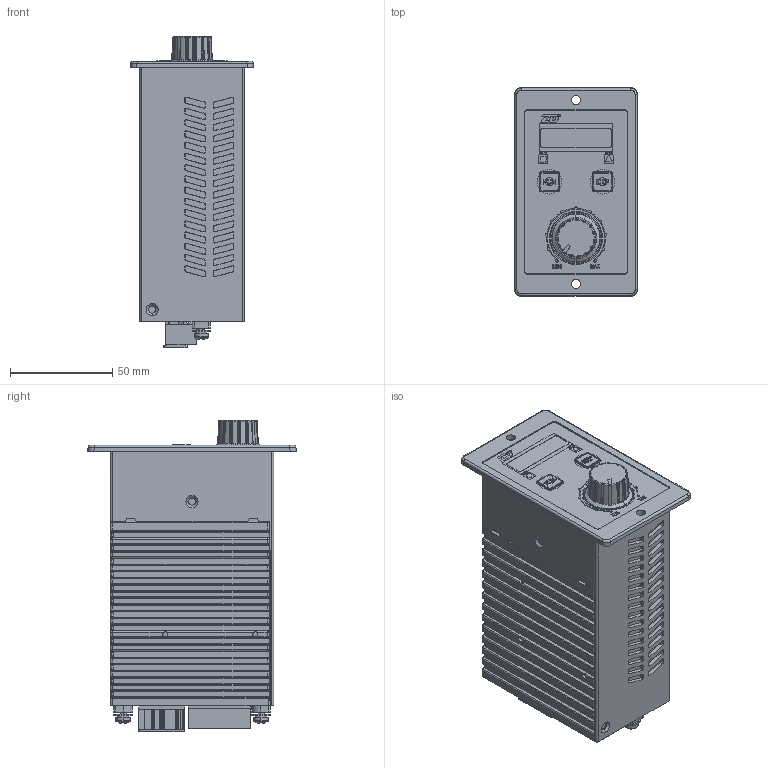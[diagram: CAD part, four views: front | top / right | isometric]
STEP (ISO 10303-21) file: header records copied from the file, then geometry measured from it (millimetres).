
FILE_DESCRIPTION (( 'STEP AP203' ), '1' );
FILE_NAME ('ZDRV.C10-200S2-D.STEP', '2023-04-24T04:50:46', ( '' ), ( '' ), 'SwSTEP 2.0', 'SolidWorks 2019', '' );
FILE_SCHEMA (( 'CONFIG_CONTROL_DESIGN' ));
Products named in the file (1): ZDRV.C10-200S2-D
Bounding box: 60 x 102 x 152.67 mm (x, y, z)
Volume: 521260.9 mm3; surface area: 74635.8 mm2
Topology: 1 solids, 16 shells, 4315 faces, 11379 edges, 7355 vertices
Faces by surface type: plane 2425, cylinder 748, bspline 621, cone 383, torus 108, sphere 30
Entity records: 159209 total; most frequent: CARTESIAN_POINT 56648, ORIENTED_EDGE 22700, DIRECTION 19144, EDGE_CURVE 11350, VECTOR 7434, LINE 7434, VERTEX_POINT 7355, AXIS2_PLACEMENT_3D 5855
